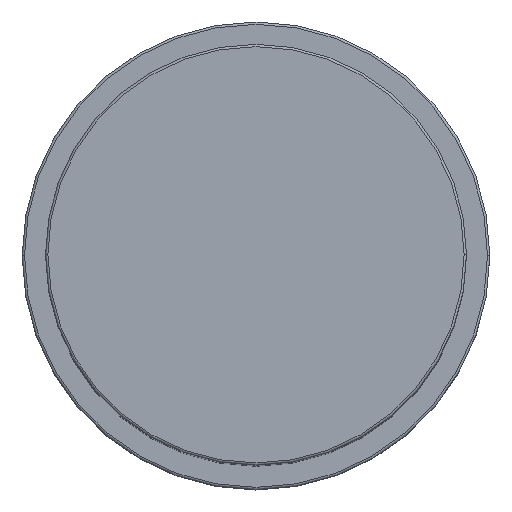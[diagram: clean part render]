
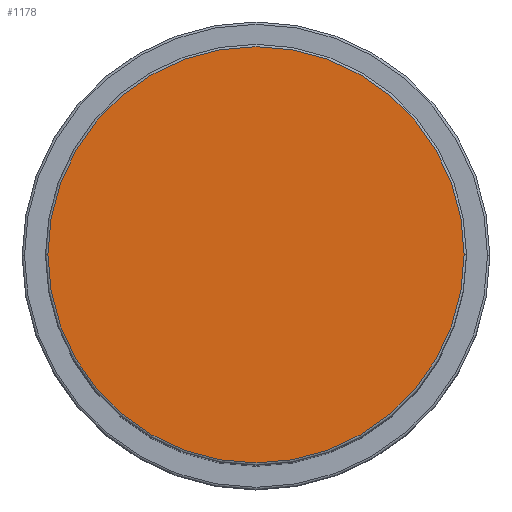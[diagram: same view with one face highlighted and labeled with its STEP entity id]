
A CAD part, top view. The second image highlights one B-rep face of the part: STEP entity #1178.
In plain terms, the highlighted planar face has unit normal (0, 0, 1).
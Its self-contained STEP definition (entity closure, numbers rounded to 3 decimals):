
#79 = AXIS2_PLACEMENT_3D ( 'NONE', #938, #189, #1196 ) ;
#111 = EDGE_CURVE ( 'NONE', #663, #1332, #459, .T. ) ;
#148 = ORIENTED_EDGE ( 'NONE', *, *, #111, .T. ) ;
#179 = EDGE_LOOP ( 'NONE', ( #1463, #148 ) ) ;
#189 = DIRECTION ( 'NONE',  ( 0., 0., 1. ) ) ;
#295 = DIRECTION ( 'NONE',  ( 0., 0., 1. ) ) ;
#334 = FACE_OUTER_BOUND ( 'NONE', #179, .T. ) ;
#459 = CIRCLE ( 'NONE', #79, 44.5 ) ;
#488 = EDGE_CURVE ( 'NONE', #1332, #663, #949, .T. ) ;
#663 = VERTEX_POINT ( 'NONE', #1441 ) ;
#842 = DIRECTION ( 'NONE',  ( 1., 0., 0. ) ) ;
#938 = CARTESIAN_POINT ( 'NONE',  ( 0., 0., 149. ) ) ;
#949 = CIRCLE ( 'NONE', #1534, 44.5 ) ;
#1055 = CARTESIAN_POINT ( 'NONE',  ( 0., 0., 149. ) ) ;
#1178 = ADVANCED_FACE ( 'NONE', ( #334 ), #1420, .T. ) ;
#1194 = CARTESIAN_POINT ( 'NONE',  ( 0., 0., 149. ) ) ;
#1196 = DIRECTION ( 'NONE',  ( 1., 0., 0. ) ) ;
#1200 = DIRECTION ( 'NONE',  ( 0., 0., 1. ) ) ;
#1332 = VERTEX_POINT ( 'NONE', #1631 ) ;
#1407 = DIRECTION ( 'NONE',  ( 1., 0., 0. ) ) ;
#1420 = PLANE ( 'NONE',  #1487 ) ;
#1441 = CARTESIAN_POINT ( 'NONE',  ( -44.5, 0., 149. ) ) ;
#1463 = ORIENTED_EDGE ( 'NONE', *, *, #488, .T. ) ;
#1487 = AXIS2_PLACEMENT_3D ( 'NONE', #1194, #1200, #842 ) ;
#1534 = AXIS2_PLACEMENT_3D ( 'NONE', #1055, #295, #1407 ) ;
#1631 = CARTESIAN_POINT ( 'NONE',  ( 44.5, 0., 149. ) ) ;
